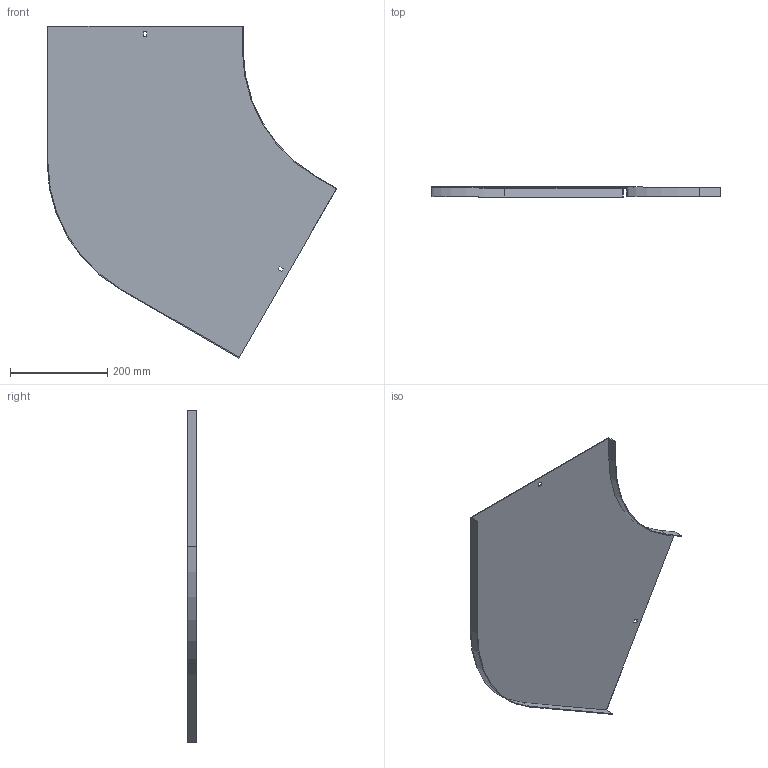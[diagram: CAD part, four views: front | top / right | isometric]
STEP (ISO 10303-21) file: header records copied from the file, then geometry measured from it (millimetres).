
FILE_DESCRIPTION (( 'STEP AP214' ), '1' );
FILE_NAME ('B2_13N3R400.step', '2025-02-21T10:52:46', ( '' ), ( '' ), 'SwSTEP 2.0', 'SolidWorks 2023', '' );
FILE_SCHEMA (( 'AUTOMOTIVE_DESIGN' ));
Length unit declared in the file: millimetre
Products named in the file (1): B2_13N3R400
Bounding box: 595.55 x 20 x 682.52 mm (x, y, z)
Volume: 444940.6 mm3; surface area: 596602.5 mm2
Topology: 1 solids, 1 shells, 26 faces, 72 edges, 48 vertices
Faces by surface type: plane 22, cylinder 4
Entity records: 855 total; most frequent: CARTESIAN_POINT 147, ORIENTED_EDGE 144, DIRECTION 134, EDGE_CURVE 72, VECTOR 64, LINE 64, VERTEX_POINT 48, AXIS2_PLACEMENT_3D 35
